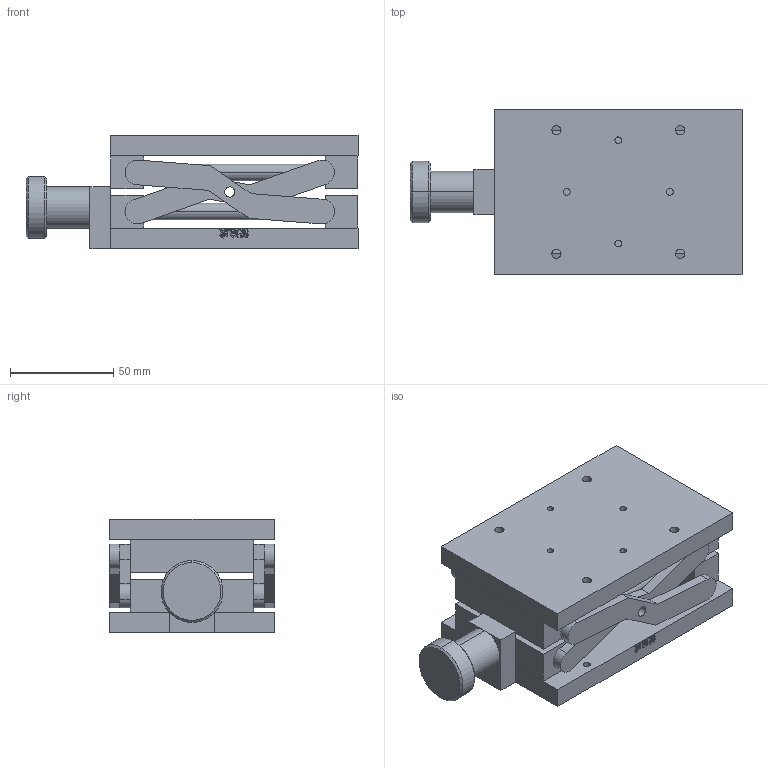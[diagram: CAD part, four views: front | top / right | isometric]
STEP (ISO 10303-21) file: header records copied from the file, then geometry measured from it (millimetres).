
FILE_DESCRIPTION (( 'STEP AP203' ), '1' );
FILE_NAME ('PT-SD68.STEP', '2022-09-04T10:02:17', ( '' ), ( '' ), 'SwSTEP 2.0', 'SolidWorks 2020', '' );
FILE_SCHEMA (( 'CONFIG_CONTROL_DESIGN' ));
Length unit declared in the file: millimetre
Products named in the file (7): PT-SD68; 錨璃10^PT-SD68; 錨璃6^PT-SD68; 44; 錨璃8^PT-SD68; 錨璃7^PT-SD68; 錨璃9^PT-SD68
Assembly tree (10 placements, depth 2):
  PT-SD68
    錨璃6^PT-SD68
    錨璃7^PT-SD68  x2
    44
    錨璃8^PT-SD68
    錨璃9^PT-SD68
    錨璃10^PT-SD68  x4
Bounding box: 161 x 80 x 55 mm (x, y, z)
Volume: 312212.2 mm3; surface area: 94716.2 mm2
Topology: 10 solids, 10 shells, 374 faces, 967 edges, 630 vertices
Faces by surface type: plane 188, cylinder 90, bspline 76, cone 20
Entity records: 13477 total; most frequent: CARTESIAN_POINT 5346, ORIENTED_EDGE 1600, DIRECTION 1282, EDGE_CURVE 800, VERTEX_POINT 530, LINE 510, VECTOR 510, AXIS2_PLACEMENT_3D 386
